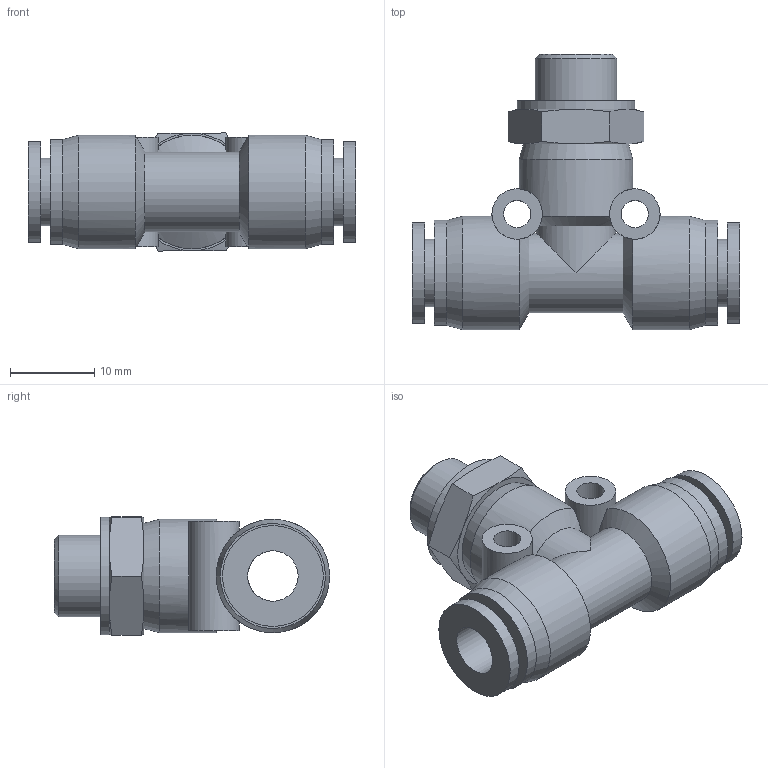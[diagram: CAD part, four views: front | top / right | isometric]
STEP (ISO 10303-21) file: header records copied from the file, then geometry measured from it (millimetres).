
FILE_DESCRIPTION((''),'2;1');
FILE_NAME('S:\UTecnico\ArchivioUT\Speciali Clienti\Speciali KONFIT\RP\06\RP 70\RP701806.stp','2012-03-23T09:09:53',('UT5'),(''),'Autodesk Inventor 2012','Autodesk Inventor 2012','');
FILE_SCHEMA(('AUTOMOTIVE_DESIGN { 1 0 10303 214 1 1 1 1 }'));
Length unit declared in the file: millimetre
Products named in the file (1): RP701806
Bounding box: 39 x 32.75 x 14.05 mm (x, y, z)
Volume: 5496.6 mm3; surface area: 4528.7 mm2
Topology: 1 solids, 1 shells, 60 faces, 141 edges, 87 vertices
Faces by surface type: plane 21, cone 20, cylinder 19
Full cylindrical faces by diameter (mm): 3.25 x2, 6 x4, 8 x2, 9.5 x2, 9.728 x1, 12 x2, 12.5 x2, 13.5 x3, 14 x1
Entity records: 1749 total; most frequent: CARTESIAN_POINT 519, DIRECTION 244, ORIENTED_EDGE 210, AXIS2_PLACEMENT_3D 118, EDGE_CURVE 105, EDGE_LOOP 102, VERTEX_POINT 77, FACE_OUTER_BOUND 60
